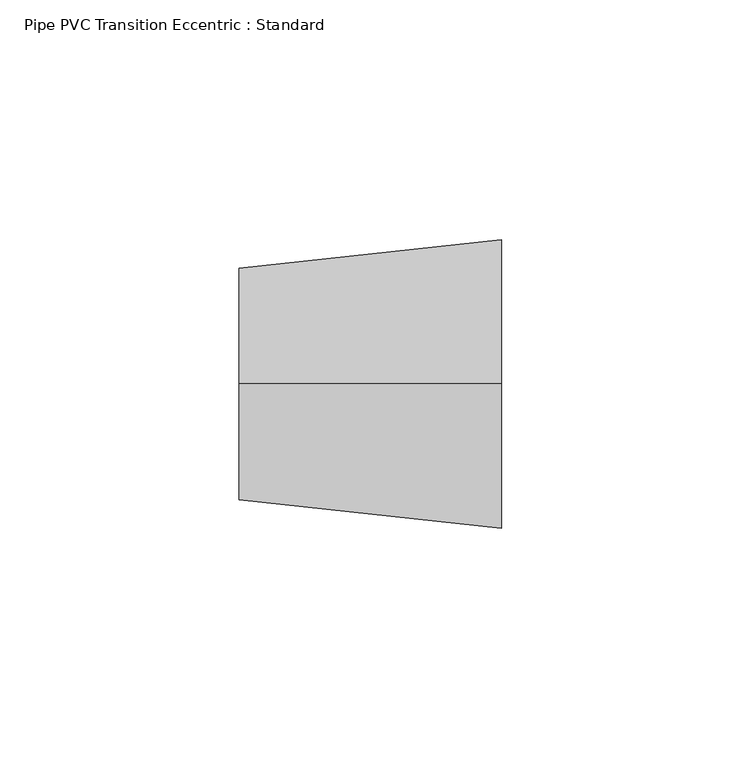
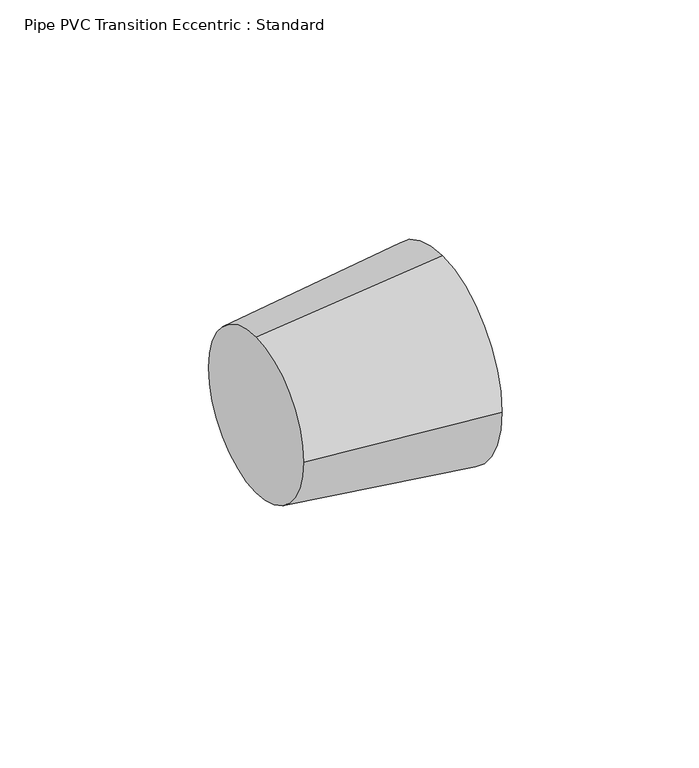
"""IFC4 building model written with IfcOpenShell, lengths in millimetres: pipe fitting geometry, Pipe PVC Transition Eccentric : Standard."""

from ifc_helpers import new_model, si_unit, frame, origin, place, context, project, spatial, polyline, circle_curve, source, transform, mapped, element, save
from ifc_brep_helpers import plane_surface, revolved_surface, advanced_brep


def pipe_pvc_transition_eccentric_standard_dae55823(model_context):
    return source(origin(), model_context, "Body", "AdvancedBrep", [
        advanced_brep(
        [(54.76875, 0.0, 30.1625), (54.76875, -30.1625, 0.0), (54.76875, 0.0, -30.1625), (54.76875, 30.1625, 0.0), (0.0, 0.0, 24.13), (0.0, 24.13, 0.0), (0.0, 0.0, -24.13), (0.0, -24.13, 0.0)],
        [
            (0, 1, circle_curve(frame((54.76875, 0.0, 0.0), z_axis=(1.0, 0.0, 0.0), x_axis=(0.0, 0.0, 1.0)), 30.1625)),
            (1, 2, circle_curve(frame((54.76875, 0.0, 0.0), z_axis=(1.0, 0.0, 0.0), x_axis=(0.0, -1.0, 0.0)), 30.1625)),
            (2, 3, circle_curve(frame((54.76875, 0.0, 0.0), z_axis=(1.0, 0.0, 0.0), x_axis=(0.0, 0.0, -1.0)), 30.1625)),
            (3, 0, circle_curve(frame((54.76875, 0.0, 0.0), z_axis=(1.0, 0.0, 0.0), x_axis=(0.0, 1.0, 0.0)), 30.1625)),
            (4, 5, circle_curve(frame((0.0, 0.0, 0.0), z_axis=(-1.0, 0.0, 0.0), x_axis=(0.0, 1.0, 0.0)), 24.13)),
            (5, 6, circle_curve(frame((0.0, 0.0, 0.0), z_axis=(-1.0, 0.0, 0.0), x_axis=(0.0, 0.0, -1.0)), 24.13)),
            (6, 7, circle_curve(frame((0.0, 0.0, 0.0), z_axis=(-1.0, 0.0, 0.0), x_axis=(0.0, -1.0, 0.0)), 24.13)),
            (7, 4, circle_curve(frame((0.0, 0.0, 0.0), z_axis=(-1.0, 0.0, 0.0), x_axis=(0.0, 0.0, 1.0)), 24.13)),
            (7, 1),
            (0, 4),
            (6, 2),
            (5, 3),
        ],
        [
            plane_surface(frame((54.76875, 0.0, 0.0), z_axis=(1.0, 0.0, 0.0), x_axis=(0.0, -1.0, 0.0))),
            plane_surface(frame((0.0, 0.0, 0.0), z_axis=(-1.0, 0.0, 0.0), x_axis=(0.0, -1.0, 0.0))),
            revolved_surface(polyline([(0.0, -24.13, 0.0), (54.76875000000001, -30.1625, 0.0)]), (-219.075, 0.0, 0.0), (1.0, 0.0, 0.0)),
            revolved_surface(polyline([(0.0, 0.0, -24.13), (54.76875000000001, 0.0, -30.1625)]), (-219.075, 0.0, 0.0), (1.0, 0.0, 0.0)),
            revolved_surface(polyline([(0.0, 24.13, 0.0), (54.76875000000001, 30.1625, 0.0)]), (-219.075, 0.0, 0.0), (1.0, 0.0, 0.0)),
            revolved_surface(polyline([(0.0, 0.0, 24.13), (54.76875000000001, 0.0, 30.1625)]), (-219.075, 0.0, 0.0), (1.0, 0.0, 0.0)),
        ],
        [
            (0, [[1, 2, 3, 4]]),
            (1, [[5, 6, 7, 8]]),
            (2, [[-8, 9, -1, 10]]),
            (3, [[-7, 11, -2, -9]]),
            (4, [[-6, 12, -3, -11]]),
            (5, [[-5, -10, -4, -12]]),
        ],
    ),
        advanced_brep(
        [(54.76875, 0.0, 30.1625), (54.76875, -30.1625, 0.0), (54.76875, 0.0, -30.1625), (54.76875, 30.1625, 0.0), (0.0, 0.0, 24.13), (0.0, 24.13, 0.0), (0.0, 0.0, -24.13), (0.0, -24.13, 0.0)],
        [
            (0, 1, circle_curve(frame((54.76875, 0.0, 0.0), z_axis=(1.0, 0.0, 0.0), x_axis=(0.0, 0.0, 1.0)), 30.1625)),
            (1, 2, circle_curve(frame((54.76875, 0.0, 0.0), z_axis=(1.0, 0.0, 0.0), x_axis=(0.0, -1.0, 0.0)), 30.1625)),
            (2, 3, circle_curve(frame((54.76875, 0.0, 0.0), z_axis=(1.0, 0.0, 0.0), x_axis=(0.0, 0.0, -1.0)), 30.1625)),
            (3, 0, circle_curve(frame((54.76875, 0.0, 0.0), z_axis=(1.0, 0.0, 0.0), x_axis=(0.0, 1.0, 0.0)), 30.1625)),
            (4, 5, circle_curve(frame((0.0, 0.0, 0.0), z_axis=(-1.0, 0.0, 0.0), x_axis=(0.0, 1.0, 0.0)), 24.13)),
            (5, 6, circle_curve(frame((0.0, 0.0, 0.0), z_axis=(-1.0, 0.0, 0.0), x_axis=(0.0, 0.0, -1.0)), 24.13)),
            (6, 7, circle_curve(frame((0.0, 0.0, 0.0), z_axis=(-1.0, 0.0, 0.0), x_axis=(0.0, -1.0, 0.0)), 24.13)),
            (7, 4, circle_curve(frame((0.0, 0.0, 0.0), z_axis=(-1.0, 0.0, 0.0), x_axis=(0.0, 0.0, 1.0)), 24.13)),
            (7, 1),
            (0, 4),
            (6, 2),
            (5, 3),
        ],
        [
            plane_surface(frame((54.76875, 0.0, 0.0), z_axis=(1.0, 0.0, 0.0), x_axis=(0.0, -1.0, 0.0))),
            plane_surface(frame((0.0, 0.0, 0.0), z_axis=(-1.0, 0.0, 0.0), x_axis=(0.0, -1.0, 0.0))),
            revolved_surface(polyline([(0.0, -24.13, 0.0), (54.76875000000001, -30.1625, 0.0)]), (-219.075, 0.0, 0.0), (1.0, 0.0, 0.0)),
            revolved_surface(polyline([(0.0, 0.0, -24.13), (54.76875000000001, 0.0, -30.1625)]), (-219.075, 0.0, 0.0), (1.0, 0.0, 0.0)),
            revolved_surface(polyline([(0.0, 24.13, 0.0), (54.76875000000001, 30.1625, 0.0)]), (-219.075, 0.0, 0.0), (1.0, 0.0, 0.0)),
            revolved_surface(polyline([(0.0, 0.0, 24.13), (54.76875000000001, 0.0, 30.1625)]), (-219.075, 0.0, 0.0), (1.0, 0.0, 0.0)),
        ],
        [
            (0, [[1, 2, 3, 4]]),
            (1, [[5, 6, 7, 8]]),
            (2, [[-8, 9, -1, 10]]),
            (3, [[-7, 11, -2, -9]]),
            (4, [[-6, 12, -3, -11]]),
            (5, [[-5, -10, -4, -12]]),
        ],
    ),
    ])


if __name__ == "__main__":
    model = new_model("IFC4")
    model_context = context("Model", 3, world=origin())
    ifc_project = project(units=[si_unit("LENGTHUNIT", "METRE", prefix="MILLI")], contexts=[model_context])
    site = spatial("IfcSite", under=ifc_project)
    building = spatial("IfcBuilding", under=site)
    placement = place(None, origin())
    pipe_pvc_transition_eccentric_standard_shape = pipe_pvc_transition_eccentric_standard_dae55823(model_context)
    element("IfcPipeFitting", 1, ObjectType="Pipe PVC Transition Eccentric : Standard", at=placement, inside=building, context=model_context, shape_type="MappedRepresentation", body=[
        mapped(pipe_pvc_transition_eccentric_standard_shape, transform((0.0, 0.0, 0.0), x_axis=(1.0, 0.0, 0.0), y_axis=(0.0, 1.0, 0.0), z_axis=(0.0, 0.0, 1.0))),
    ])
    save(model, "model.ifc")
